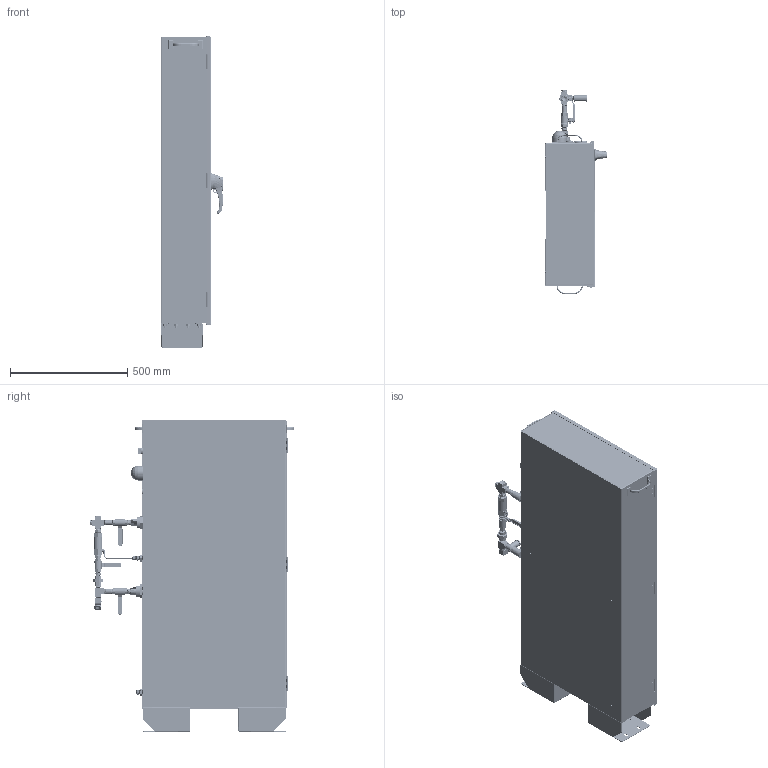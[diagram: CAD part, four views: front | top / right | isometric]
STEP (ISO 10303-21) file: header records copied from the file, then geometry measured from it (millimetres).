
FILE_DESCRIPTION(/* description */ (''),/* implementation_level */ '2;1');
FILE_NAME(/* name */ 'C:\Vault Local\Designs\CAD\Manufacturing\ECS Products\PGEN Nitrogen Generators\PGEN-30_40\Export\PGEN-30.stp',/* time_stamp */ '2020-12-21T13:52:41-06:00',/* author */ ('Shommes'),/* organization */ (''),/* preprocessor_version */ 'ST-DEVELOPER v18.1',/* originating_system */ 'Autodesk Inventor 2020',/* authorisation */ '');
FILE_SCHEMA (('AUTOMOTIVE_DESIGN { 1 0 10303 214 3 1 1 }'));
Products named in the file (1): PGEN-30_Shrinkwrap_1
Bounding box: 263.92 x 869.43 x 1325.84 mm (x, y, z)
Volume: 6008738.3 mm3; surface area: 5481148.8 mm2
Topology: 6 solids, 6 shells, 7353 faces, 19711 edges, 12548 vertices
Faces by surface type: plane 2452, cylinder 2004, bspline 1493, cone 1107, torus 225, sphere 72
Full cylindrical faces by diameter (mm): 1.905 x2, 2 x2, 2.02 x28, 2.286 x8, 2.54 x8, 2.845 x15, 2.997 x2, 3.175 x4, 3.5 x3, 3.8 x2, 3.969 x3, 4.1 x3, 4.826 x1, 5 x1, 5.156 x4, 5.563 x2, 6 x1, 6.35 x6, 6.607 x1, 6.909 x2, 6.945 x1, 7.057 x28, 7.233 x1, 7.772 x1, 7.785 x25, 7.836 x6, 7.938 x5, 7.952 x1, 8 x2, 8.458 x6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
Entity records: 537396 total; most frequent: CARTESIAN_POINT 357688, ORIENTED_EDGE 39372, DIRECTION 32018, EDGE_CURVE 19686, VERTEX_POINT 12550, AXIS2_PLACEMENT_3D 11819, LINE 8380, VECTOR 8380
